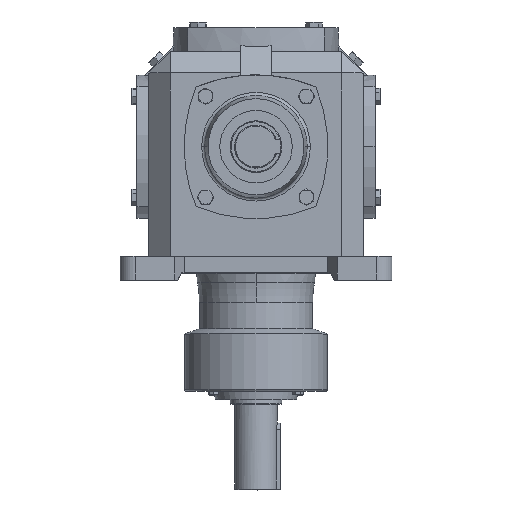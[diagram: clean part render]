
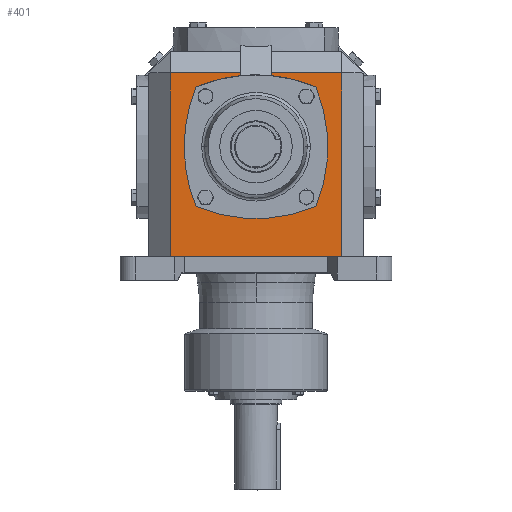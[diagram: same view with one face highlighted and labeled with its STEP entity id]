
A CAD part, top view. The second image highlights one B-rep face of the part: STEP entity #401.
In plain terms, the highlighted planar face has unit normal (0, 0, 1).
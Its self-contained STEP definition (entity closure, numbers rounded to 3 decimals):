
#76 = ORIENTED_EDGE ( 'NONE', *, *, #5854, .T. ) ;
#220 = LINE ( 'NONE', #11729, #4300 ) ;
#263 = VERTEX_POINT ( 'NONE', #14236 ) ;
#282 = PLANE ( 'NONE',  #13057 ) ;
#305 = VERTEX_POINT ( 'NONE', #18502 ) ;
#382 = ORIENTED_EDGE ( 'NONE', *, *, #2181, .F. ) ;
#401 = ADVANCED_FACE ( 'NONE', ( #13122 ), #282, .F. ) ;
#437 = CARTESIAN_POINT ( 'NONE',  ( -15.8, 77.428, 112.5 ) ) ;
#528 = CARTESIAN_POINT ( 'NONE',  ( -112.5, 100., 112.5 ) ) ;
#596 = CARTESIAN_POINT ( 'NONE',  ( -62.819, -62.819, 112.5 ) ) ;
#659 = DIRECTION ( 'NONE',  ( 0., -1., 0. ) ) ;
#740 = LINE ( 'NONE', #7848, #7278 ) ;
#790 = ORIENTED_EDGE ( 'NONE', *, *, #4950, .F. ) ;
#1244 = DIRECTION ( 'NONE',  ( 1., 0., 0. ) ) ;
#2163 = VERTEX_POINT ( 'NONE', #437 ) ;
#2181 = EDGE_CURVE ( 'NONE', #6894, #6847, #2274, .T. ) ;
#2274 = CIRCLE ( 'NONE', #3095, 162.788 ) ;
#2307 = CARTESIAN_POINT ( 'NONE',  ( 89.928, -115., 112.5 ) ) ;
#2709 = VECTOR ( 'NONE', #9762, 1000. ) ;
#2844 = VECTOR ( 'NONE', #16470, 1000. ) ;
#3033 = EDGE_CURVE ( 'NONE', #13261, #10391, #13500, .T. ) ;
#3094 = DIRECTION ( 'NONE',  ( 0., 0., 1. ) ) ;
#3095 = AXIS2_PLACEMENT_3D ( 'NONE', #3830, #5281, #5039 ) ;
#3229 = CARTESIAN_POINT ( 'NONE',  ( 15.8, 77.428, 112.5 ) ) ;
#3390 = VECTOR ( 'NONE', #1244, 1000. ) ;
#3393 = ORIENTED_EDGE ( 'NONE', *, *, #12621, .T. ) ;
#3542 = ORIENTED_EDGE ( 'NONE', *, *, #11054, .F. ) ;
#3807 = CARTESIAN_POINT ( 'NONE',  ( -112.5, 77.428, 112.5 ) ) ;
#3818 = EDGE_CURVE ( 'NONE', #9611, #6894, #6544, .T. ) ;
#3830 = CARTESIAN_POINT ( 'NONE',  ( 87.36, 0., 112.5 ) ) ;
#3851 = LINE ( 'NONE', #3807, #2709 ) ;
#4042 = CARTESIAN_POINT ( 'NONE',  ( 62.819, 62.819, 112.5 ) ) ;
#4300 = VECTOR ( 'NONE', #14379, 1000. ) ;
#4654 = DIRECTION ( 'NONE',  ( 0., 0., -1. ) ) ;
#4950 = EDGE_CURVE ( 'NONE', #6181, #11983, #13664, .T. ) ;
#5039 = DIRECTION ( 'NONE',  ( 1., 0., 0. ) ) ;
#5281 = DIRECTION ( 'NONE',  ( 0., 0., 1. ) ) ;
#5282 = CIRCLE ( 'NONE', #15142, 162.788 ) ;
#5572 = AXIS2_PLACEMENT_3D ( 'NONE', #7970, #6704, #6764 ) ;
#5625 = CARTESIAN_POINT ( 'NONE',  ( 0., 87.36, 112.5 ) ) ;
#5633 = AXIS2_PLACEMENT_3D ( 'NONE', #5625, #7046, #5748 ) ;
#5748 = DIRECTION ( 'NONE',  ( 1., 0., 0. ) ) ;
#5854 = EDGE_CURVE ( 'NONE', #10391, #263, #17687, .T. ) ;
#5887 = VECTOR ( 'NONE', #15521, 1000. ) ;
#6103 = DIRECTION ( 'NONE',  ( -1., 0., 0. ) ) ;
#6181 = VERTEX_POINT ( 'NONE', #15226 ) ;
#6544 = CIRCLE ( 'NONE', #5572, 162.788 ) ;
#6554 = LINE ( 'NONE', #16902, #5887 ) ;
#6595 = DIRECTION ( 'NONE',  ( 0., 1., 0. ) ) ;
#6704 = DIRECTION ( 'NONE',  ( 0., 0., 1. ) ) ;
#6764 = DIRECTION ( 'NONE',  ( 1., 0., 0. ) ) ;
#6832 = VERTEX_POINT ( 'NONE', #3229 ) ;
#6847 = VERTEX_POINT ( 'NONE', #596 ) ;
#6894 = VERTEX_POINT ( 'NONE', #12096 ) ;
#7046 = DIRECTION ( 'NONE',  ( 0., 0., 1. ) ) ;
#7278 = VECTOR ( 'NONE', #6595, 1000. ) ;
#7330 = DIRECTION ( 'NONE',  ( 1., 0., 0. ) ) ;
#7625 = AXIS2_PLACEMENT_3D ( 'NONE', #8568, #17089, #8503 ) ;
#7824 = AXIS2_PLACEMENT_3D ( 'NONE', #10265, #3094, #7330 ) ;
#7835 = CARTESIAN_POINT ( 'NONE',  ( -62.819, 62.819, 112.5 ) ) ;
#7848 = CARTESIAN_POINT ( 'NONE',  ( -15.8, 100., 112.5 ) ) ;
#7937 = DIRECTION ( 'NONE',  ( 0., 0., 1. ) ) ;
#7970 = CARTESIAN_POINT ( 'NONE',  ( 87.36, 0., 112.5 ) ) ;
#8503 = DIRECTION ( 'NONE',  ( 1., 0., 0. ) ) ;
#8568 = CARTESIAN_POINT ( 'NONE',  ( -87.36, 0., 112.5 ) ) ;
#8844 = EDGE_CURVE ( 'NONE', #6847, #6181, #12738, .T. ) ;
#9356 = DIRECTION ( 'NONE',  ( 1., 0., 0. ) ) ;
#9611 = VERTEX_POINT ( 'NONE', #7835 ) ;
#9762 = DIRECTION ( 'NONE',  ( -1., 0., 0. ) ) ;
#9919 = EDGE_LOOP ( 'NONE', ( #15191, #3393, #12025, #10743, #14113, #76, #14223, #17674, #3542, #790, #11888, #382, #13181 ) ) ;
#10265 = CARTESIAN_POINT ( 'NONE',  ( 0., -87.36, 112.5 ) ) ;
#10391 = VERTEX_POINT ( 'NONE', #2307 ) ;
#10743 = ORIENTED_EDGE ( 'NONE', *, *, #11569, .T. ) ;
#10926 = EDGE_CURVE ( 'NONE', #12680, #9611, #16735, .T. ) ;
#10955 = CARTESIAN_POINT ( 'NONE',  ( -15.8, 74.659, 112.5 ) ) ;
#11054 = EDGE_CURVE ( 'NONE', #11983, #11683, #5282, .T. ) ;
#11569 = EDGE_CURVE ( 'NONE', #305, #13261, #18508, .T. ) ;
#11683 = VERTEX_POINT ( 'NONE', #12453 ) ;
#11729 = CARTESIAN_POINT ( 'NONE',  ( 15.8, 100., 112.5 ) ) ;
#11888 = ORIENTED_EDGE ( 'NONE', *, *, #8844, .F. ) ;
#11983 = VERTEX_POINT ( 'NONE', #4042 ) ;
#12025 = ORIENTED_EDGE ( 'NONE', *, *, #17057, .T. ) ;
#12096 = CARTESIAN_POINT ( 'NONE',  ( -75.428, 0., 112.5 ) ) ;
#12247 = CARTESIAN_POINT ( 'NONE',  ( 89.928, 100., 112.5 ) ) ;
#12453 = CARTESIAN_POINT ( 'NONE',  ( 15.8, 74.659, 112.5 ) ) ;
#12621 = EDGE_CURVE ( 'NONE', #12680, #2163, #740, .T. ) ;
#12623 = CARTESIAN_POINT ( 'NONE',  ( -112.5, -115., 112.5 ) ) ;
#12680 = VERTEX_POINT ( 'NONE', #10955 ) ;
#12738 = CIRCLE ( 'NONE', #5633, 162.788 ) ;
#13057 = AXIS2_PLACEMENT_3D ( 'NONE', #528, #4654, #6103 ) ;
#13122 = FACE_OUTER_BOUND ( 'NONE', #9919, .T. ) ;
#13181 = ORIENTED_EDGE ( 'NONE', *, *, #3818, .F. ) ;
#13261 = VERTEX_POINT ( 'NONE', #17160 ) ;
#13500 = LINE ( 'NONE', #12623, #3390 ) ;
#13599 = CARTESIAN_POINT ( 'NONE',  ( -89.928, 100., 112.5 ) ) ;
#13664 = CIRCLE ( 'NONE', #7625, 162.788 ) ;
#14113 = ORIENTED_EDGE ( 'NONE', *, *, #3033, .T. ) ;
#14223 = ORIENTED_EDGE ( 'NONE', *, *, #17491, .T. ) ;
#14236 = CARTESIAN_POINT ( 'NONE',  ( 89.928, 77.428, 112.5 ) ) ;
#14379 = DIRECTION ( 'NONE',  ( 0., -1., 0. ) ) ;
#14926 = EDGE_CURVE ( 'NONE', #6832, #11683, #220, .T. ) ;
#15142 = AXIS2_PLACEMENT_3D ( 'NONE', #16540, #7937, #9356 ) ;
#15191 = ORIENTED_EDGE ( 'NONE', *, *, #10926, .F. ) ;
#15226 = CARTESIAN_POINT ( 'NONE',  ( 62.819, -62.819, 112.5 ) ) ;
#15521 = DIRECTION ( 'NONE',  ( -1., 0., 0. ) ) ;
#16470 = DIRECTION ( 'NONE',  ( 0., 1., 0. ) ) ;
#16540 = CARTESIAN_POINT ( 'NONE',  ( 0., -87.36, 112.5 ) ) ;
#16735 = CIRCLE ( 'NONE', #7824, 162.788 ) ;
#16902 = CARTESIAN_POINT ( 'NONE',  ( -112.5, 77.428, 112.5 ) ) ;
#17057 = EDGE_CURVE ( 'NONE', #2163, #305, #3851, .T. ) ;
#17089 = DIRECTION ( 'NONE',  ( 0., 0., 1. ) ) ;
#17160 = CARTESIAN_POINT ( 'NONE',  ( -89.928, -115., 112.5 ) ) ;
#17491 = EDGE_CURVE ( 'NONE', #263, #6832, #6554, .T. ) ;
#17674 = ORIENTED_EDGE ( 'NONE', *, *, #14926, .T. ) ;
#17687 = LINE ( 'NONE', #12247, #2844 ) ;
#18058 = VECTOR ( 'NONE', #659, 1000. ) ;
#18502 = CARTESIAN_POINT ( 'NONE',  ( -89.928, 77.428, 112.5 ) ) ;
#18508 = LINE ( 'NONE', #13599, #18058 ) ;
